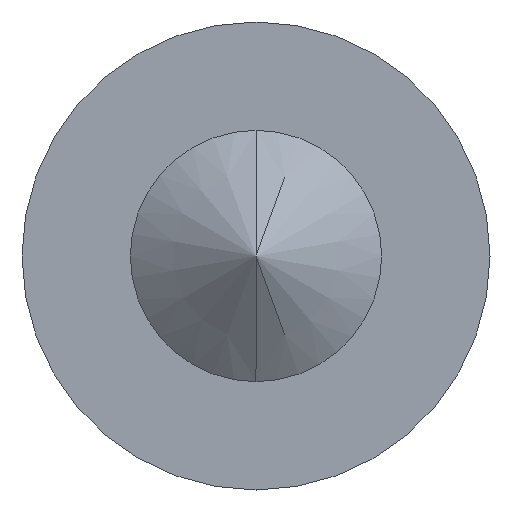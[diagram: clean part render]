
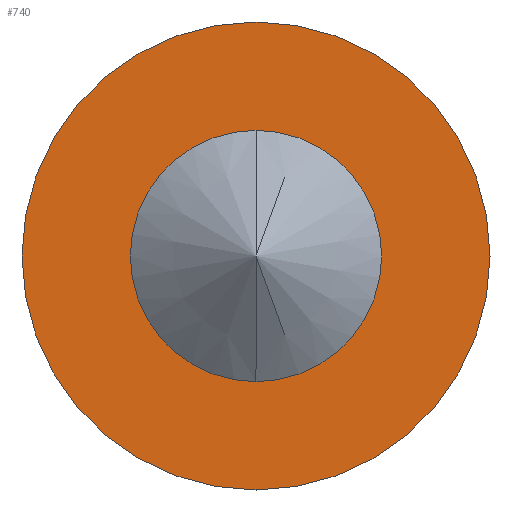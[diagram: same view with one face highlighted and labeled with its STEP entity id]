
A CAD part, left-side view. The second image highlights one B-rep face of the part: STEP entity #740.
In plain terms, the highlighted planar face has unit normal (-1, 0, 0).
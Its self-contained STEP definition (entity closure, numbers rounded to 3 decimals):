
#51 = ORIENTED_EDGE ( 'NONE', *, *, #1251, .F. ) ;
#64 = EDGE_CURVE ( 'NONE', #1259, #1021, #1104, .T. ) ;
#122 = CIRCLE ( 'NONE', #373, 1.25 ) ;
#137 = ORIENTED_EDGE ( 'NONE', *, *, #356, .T. ) ;
#162 = CARTESIAN_POINT ( 'NONE',  ( -1.404, 0., 2.7 ) ) ;
#163 = DIRECTION ( 'NONE',  ( 0., 0., -1. ) ) ;
#165 = DIRECTION ( 'NONE',  ( 1., 0., 0. ) ) ;
#167 = CARTESIAN_POINT ( 'NONE',  ( -1.404, 0., 0. ) ) ;
#213 = VERTEX_POINT ( 'NONE', #1047 ) ;
#311 = AXIS2_PLACEMENT_3D ( 'NONE', #507, #504, #390 ) ;
#321 = ORIENTED_EDGE ( 'NONE', *, *, #64, .F. ) ;
#356 = EDGE_CURVE ( 'NONE', #551, #213, #122, .T. ) ;
#373 = AXIS2_PLACEMENT_3D ( 'NONE', #1150, #1152, #1153 ) ;
#390 = DIRECTION ( 'NONE',  ( 0., 0., -1. ) ) ;
#420 = AXIS2_PLACEMENT_3D ( 'NONE', #1040, #1020, #1097 ) ;
#469 = CARTESIAN_POINT ( 'NONE',  ( -1.404, 0., -2.7 ) ) ;
#504 = DIRECTION ( 'NONE',  ( 1., 0., 0. ) ) ;
#507 = CARTESIAN_POINT ( 'NONE',  ( -1.404, 0., 0. ) ) ;
#521 = CARTESIAN_POINT ( 'NONE',  ( -1.404, 0., 1.25 ) ) ;
#535 = EDGE_CURVE ( 'NONE', #213, #551, #781, .T. ) ;
#537 = EDGE_LOOP ( 'NONE', ( #51, #321 ) ) ;
#551 = VERTEX_POINT ( 'NONE', #521 ) ;
#658 = FACE_OUTER_BOUND ( 'NONE', #537, .T. ) ;
#740 = ADVANCED_FACE ( 'NONE', ( #1295, #658 ), #1308, .T. ) ;
#781 = CIRCLE ( 'NONE', #311, 1.25 ) ;
#825 = AXIS2_PLACEMENT_3D ( 'NONE', #167, #165, #163 ) ;
#872 = AXIS2_PLACEMENT_3D ( 'NONE', #1283, #1274, #1273 ) ;
#885 = EDGE_LOOP ( 'NONE', ( #1313, #137 ) ) ;
#939 = CIRCLE ( 'NONE', #825, 2.7 ) ;
#1020 = DIRECTION ( 'NONE',  ( 1., 0., 0. ) ) ;
#1021 = VERTEX_POINT ( 'NONE', #469 ) ;
#1040 = CARTESIAN_POINT ( 'NONE',  ( -1.404, 0., 0. ) ) ;
#1047 = CARTESIAN_POINT ( 'NONE',  ( -1.404, 0., -1.25 ) ) ;
#1097 = DIRECTION ( 'NONE',  ( 0., 0., -1. ) ) ;
#1104 = CIRCLE ( 'NONE', #420, 2.7 ) ;
#1150 = CARTESIAN_POINT ( 'NONE',  ( -1.404, 0., 0. ) ) ;
#1152 = DIRECTION ( 'NONE',  ( 1., 0., 0. ) ) ;
#1153 = DIRECTION ( 'NONE',  ( 0., 0., -1. ) ) ;
#1251 = EDGE_CURVE ( 'NONE', #1021, #1259, #939, .T. ) ;
#1259 = VERTEX_POINT ( 'NONE', #162 ) ;
#1273 = DIRECTION ( 'NONE',  ( 0., 0., 1. ) ) ;
#1274 = DIRECTION ( 'NONE',  ( -1., 0., 0. ) ) ;
#1283 = CARTESIAN_POINT ( 'NONE',  ( -1.404, 1.25, 0. ) ) ;
#1295 = FACE_BOUND ( 'NONE', #885, .T. ) ;
#1308 = PLANE ( 'NONE',  #872 ) ;
#1313 = ORIENTED_EDGE ( 'NONE', *, *, #535, .T. ) ;
